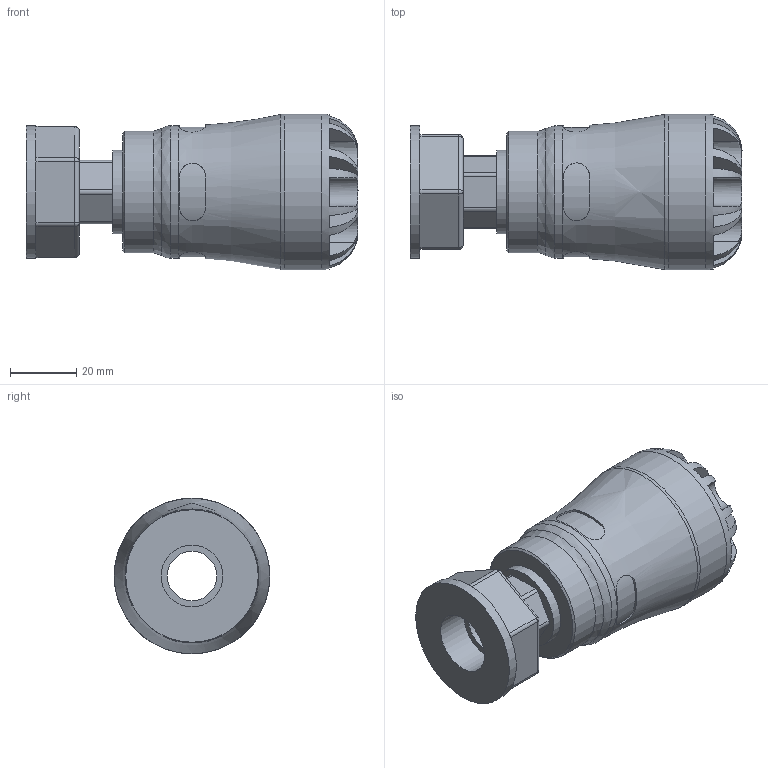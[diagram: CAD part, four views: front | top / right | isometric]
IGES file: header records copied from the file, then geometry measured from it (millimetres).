
Global section: file name: 1003ZR007010.ipt; native system: Autodesk Inventor 2019; preprocessor: unknown; author: KIM; date: 20210902.120250; units: inch
Bounding box: 100.08 x 46.99 x 46.99 mm (x, y, z)
Volume: 85055.2 mm3; surface area: 26160.5 mm2
Topology: 2 solids, 2 shells, 152 faces, 380 edges, 243 vertices
Faces by surface type: plane 80, cylinder 36, revolution 29, sphere 6, cone 1
Full cylindrical faces by diameter (mm): 18.631 x1, 25.211 x1, 36.652 x1, 39.941 x2, 46.99 x1
